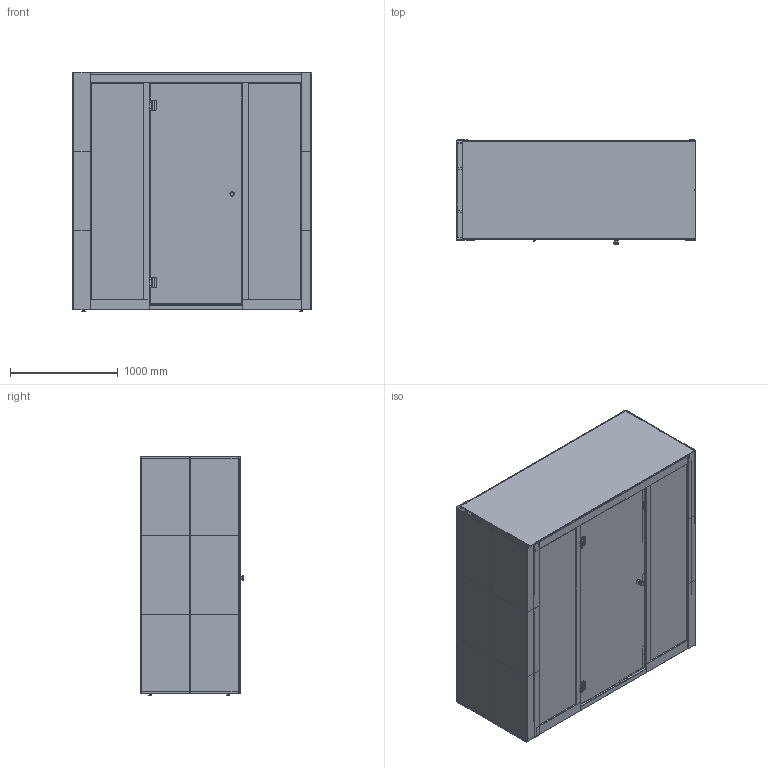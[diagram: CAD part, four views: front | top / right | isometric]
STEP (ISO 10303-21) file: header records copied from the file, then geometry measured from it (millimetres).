
FILE_DESCRIPTION(/* description */ (''),/* implementation_level */ '2;1');
FILE_NAME(/* name */ 'MODEL_SPARK _EXPORT_STEP.step',/* time_stamp */ '2023-11-30T16:00:36+01:00',/* author */ (''),/* organization */ (''),/* preprocessor_version */ 'ST-DEVELOPER v20',/* originating_system */ 'Autodesk Translation Framework v12.14.0.127',/* authorisation */ '');
FILE_SCHEMA (('AUTOMOTIVE_DESIGN { 1 0 10303 214 3 1 1 }'));
Products named in the file (132): MODEL_SPARK² _EXPORT_FINAL; FLOOR; Deska; Dska zakladni; koberec; nožka_M8 v11; WALL; deska_1; WALL (1); Deska (1); FRAME; Rám dveře v85; Ram; Prahová lista; Sklo; Rám zadní v37; Ram (1); COMPONENTS; Montážní balíček; Madlo buk černá pár v6; Madlo dřevo; WALA - pant v7; WALA - pant v7 (1); Component1; Component2; Component6; Component7; Component11; Component12; Component13; Component14; Component15; Component16; Component17; Component18; Dveře; Sklo - dvere; Protiplech na sklo SLB ovál v20; Sklo (1); Lišta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
Assembly tree (188 placements, depth 6):
  MODEL_SPARK² _EXPORT_FINAL
    FLOOR
      Deska
        Dska zakladni
      koberec
      nožka_M8 v11  x4
    WALL
      deska_1
    WALL (1)
      Deska (1)
    FRAME
      Rám dveře v85
        Ram
        Prahová lista
        Sklo  x2
      Rám zadní v37
        Ram (1)
    COMPONENTS
      Montážní balíček
        Madlo buk černá pár v6
          Madlo dřevo  x2
        WALA - pant v7
          Component1
          Component2
          Component6
          Component7
          Component11
          Component12
          Component13
          Component14
          Component15
          Component16
          Component17
          Component18
        WALA - pant v7 (1)
          Component1
          Component2
          Component6
          Component7
          Component11
          Component12
          Component13
          Component14
          Component15
          Component16
          Component17
          Component18
      Dveře
        Sklo - dvere
        Protiplech na sklo SLB ovál v20  x3
      Sklo (1)  x3
      Lišta
        SPARK²_Multilista_lista spodní
        PIR krabice s čidlem do čalounu
 - Panasonic-old v30
          PIR 2.1 hardware v5
            PIR_2.1_ekm_08
        SPARK²_Difuzor  x2
        3D tisk podložka PIR multilišta
 (O0292) v6
      Spark² Sezení + polštář 
v31
        Sezení + polštář
Bounding box: 2223 x 966 x 2228 mm (x, y, z)
Volume: 326739350.8 mm3; surface area: 74845309.7 mm2
Topology: 186 solids, 219 shells, 6877 faces, 17477 edges, 11140 vertices
Faces by surface type: plane 3179, cylinder 1627, bspline 1183, cone 636, torus 196, sphere 56
Full cylindrical faces by diameter (mm): 0.45 x3, 1 x7, 2.5 x5, 3 x1, 3.3 x12, 4 x71, 4.2 x4, 5 x22, 5.5 x32, 6 x72, 6.585 x2, 7 x14, 8 x4, 9 x4, 9.127 x2, 9.2 x8, 10 x14, 10.5 x6, 12 x8, 12.5 x4, 13.227 x4, 14 x4, 14.8 x4, 15 x14, 17.8 x4, 18 x4, 19.222 x4, 20.037 x4, 21.6 x1, 23 x1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
Entity records: 236529 total; most frequent: CARTESIAN_POINT 118810, ORIENTED_EDGE 24862, DIRECTION 22475, EDGE_CURVE 12431, VERTEX_POINT 7964, AXIS2_PLACEMENT_3D 7846, LINE 6783, VECTOR 6783
